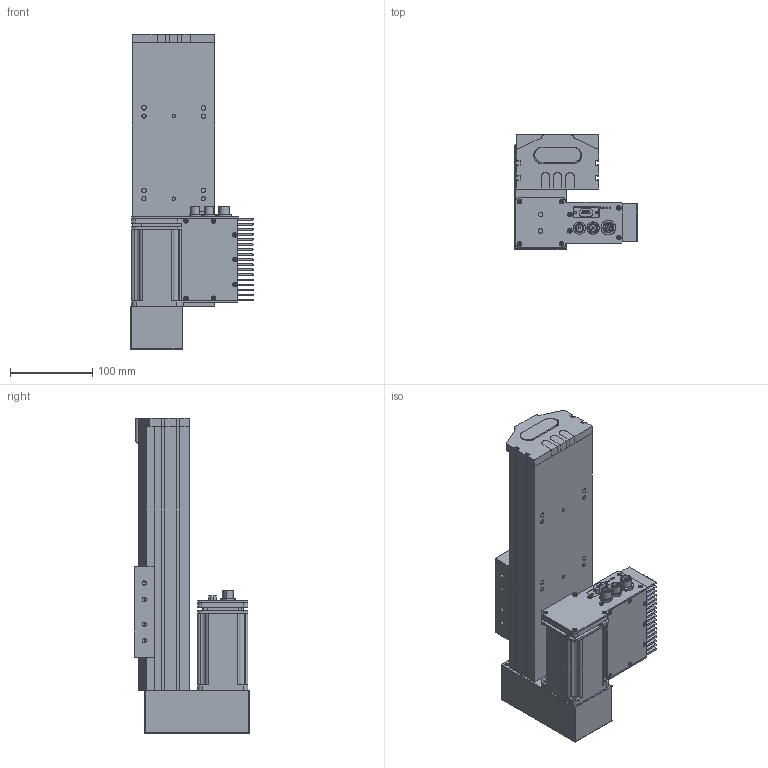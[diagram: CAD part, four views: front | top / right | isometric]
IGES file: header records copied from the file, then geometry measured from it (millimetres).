
Start section: SolidWorks IGES file using analytic representation for surfaces
Global section: file name: C:\Documents and Settings\1EDPI\Mes documents\yanize\S 10 TSH BM\S 10 TSH  BM S100.IGS; native system: SolidWorks 2010; preprocessor: SolidWorks 2010; author: 1EDPI; date: 120906.140856; units: millimetre
Bounding box: 149.38 x 139.75 x 382 mm (x, y, z)
Surface area: 481316.6 mm2 (no closed solid volume)
Topology: 0 solids, 0 shells, 1954 faces, 25900 edges, 25868 vertices
Faces by surface type: revolution 1031, bspline 923
